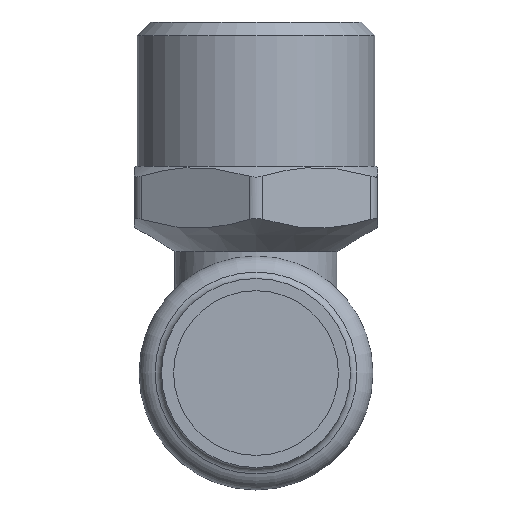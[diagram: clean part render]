
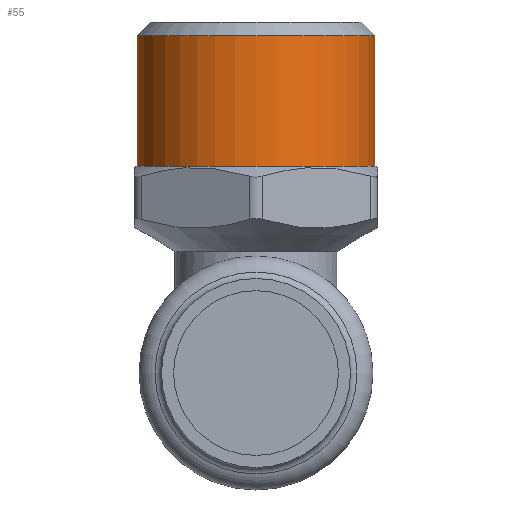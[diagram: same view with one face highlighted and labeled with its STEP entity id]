
A CAD part, front view. The second image highlights one B-rep face of the part: STEP entity #55.
In plain terms, the highlighted cylindrical face has radius 13.22 mm (diameter 26.441 mm), a full revolution.
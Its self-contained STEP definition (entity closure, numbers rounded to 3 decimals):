
#55=ADVANCED_FACE('',(#106,#108),#110,.T.);
#106=FACE_OUTER_BOUND('',#107,.T.);
#107=EDGE_LOOP('',(#398));
#108=FACE_OUTER_BOUND('',#109,.T.);
#109=EDGE_LOOP('',(#399));
#110=CYLINDRICAL_SURFACE('',#111,13.221);
#111=AXIS2_PLACEMENT_3D('',#112,#113,#114);
#112=CARTESIAN_POINT('',(0.,0.,23.));
#113=DIRECTION('',(0.,0.,1.));
#114=DIRECTION('',(-1.,0.,0.));
#398=ORIENTED_EDGE('',*,*,#524,.F.);
#399=ORIENTED_EDGE('',*,*,#525,.T.);
#524=EDGE_CURVE('',#589,#589,#590,.T.);
#525=EDGE_CURVE('',#591,#591,#592,.T.);
#589=VERTEX_POINT('',#708);
#590=CIRCLE('',#709,13.221);
#591=VERTEX_POINT('',#713);
#592=CIRCLE('',#714,13.221);
#708=CARTESIAN_POINT('',(-13.221,0.,37.5));
#709=AXIS2_PLACEMENT_3D('',#710,#711,#712);
#710=CARTESIAN_POINT('',(0.,0.,37.5));
#711=DIRECTION('',(0.,0.,1.));
#712=DIRECTION('',(-1.,0.,0.));
#713=CARTESIAN_POINT('',(-13.221,0.,23.));
#714=AXIS2_PLACEMENT_3D('',#715,#716,#717);
#715=CARTESIAN_POINT('',(0.,0.,23.));
#716=DIRECTION('',(0.,0.,1.));
#717=DIRECTION('',(-1.,0.,0.));
